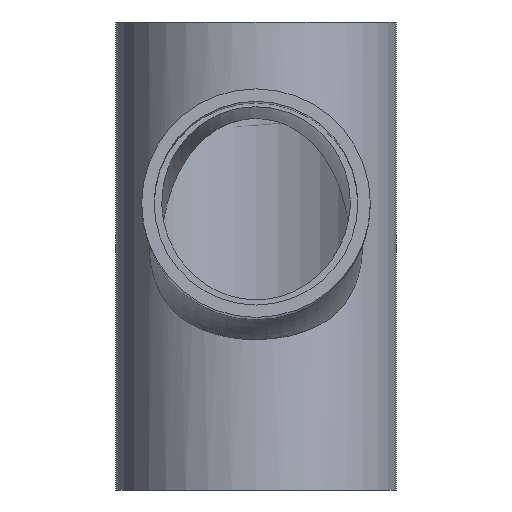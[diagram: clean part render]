
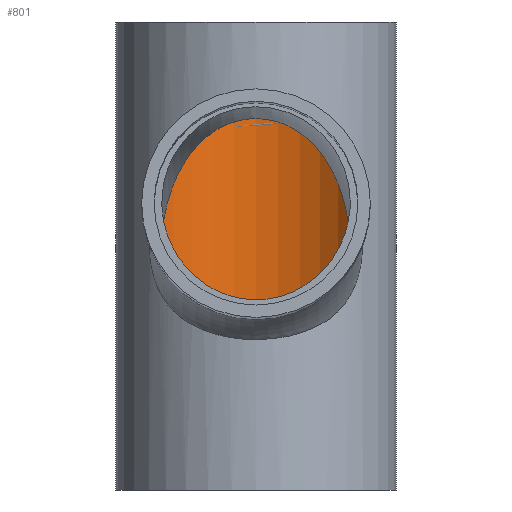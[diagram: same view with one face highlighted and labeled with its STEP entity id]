
A CAD part, left-side view. The second image highlights one B-rep face of the part: STEP entity #801.
In plain terms, the highlighted cylindrical face has radius 61.75 mm (diameter 123.5 mm), a full revolution.
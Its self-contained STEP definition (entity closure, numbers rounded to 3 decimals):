
#14=FACE_BOUND($,#173,.T.);
#15=FACE_BOUND($,#174,.T.);
#16=FACE_BOUND($,#175,.T.);
#48=B_SPLINE_CURVE_WITH_KNOTS($,3,(#1381,#1382,#1383,#1384,#1385,#1386,
#1387,#1388,#1389,#1390,#1391,#1392,#1393,#1394,#1395,#1396,#1397,#1398,
#1399,#1400,#1401,#1402,#1403,#1404,#1405,#1406,#1407,#1408,#1409,#1410,
#1411,#1412,#1413,#1414,#1415,#1416,#1417,#1418,#1419,#1420,#1421,#1422),
 .UNSPECIFIED.,.T.,.F.,(4,2,2,2,2,2,2,2,2,2,2,2,2,2,2,2,2,2,2,2,4),(-31.333,
-31.293,-30.044,-28.451,-26.372,
-23.975,-22.368,-21.069,-19.687,
-18.078,-16.424,-14.76,-13.122,
-11.594,-10.171,-8.662,-6.537,
-4.224,-2.556,-1.264,0.),.UNSPECIFIED.);
#173=EDGE_LOOP($,(#607));
#174=EDGE_LOOP($,(#608));
#175=EDGE_LOOP($,(#609));
#267=CIRCLE($,#914,61.75);
#268=CIRCLE($,#915,61.75);
#387=VERTEX_POINT($,#1380);
#388=VERTEX_POINT($,#1423);
#389=VERTEX_POINT($,#1425);
#483=EDGE_CURVE($,#387,#387,#48,.T.);
#484=EDGE_CURVE($,#388,#388,#267,.T.);
#485=EDGE_CURVE($,#389,#389,#268,.T.);
#607=ORIENTED_EDGE($,*,*,#483,.F.);
#608=ORIENTED_EDGE($,*,*,#484,.F.);
#609=ORIENTED_EDGE($,*,*,#485,.F.);
#701=CYLINDRICAL_SURFACE($,#913,61.75);
#801=ADVANCED_FACE($,(#14,#15,#16),#701,.F.);
#913=AXIS2_PLACEMENT_3D($,#1379,#1158,#1159);
#914=AXIS2_PLACEMENT_3D($,#1424,#1160,#1161);
#915=AXIS2_PLACEMENT_3D($,#1426,#1162,#1163);
#1158=DIRECTION('center_axis',(0.,0.,1.));
#1159=DIRECTION('ref_axis',(1.,0.,0.));
#1160=DIRECTION('center_axis',(0.,0.,-1.));
#1161=DIRECTION('ref_axis',(1.,0.,0.));
#1162=DIRECTION('center_axis',(0.,0.,1.));
#1163=DIRECTION('ref_axis',(1.,0.,0.));
#1379=CARTESIAN_POINT('Origin',(0.,0.,0.));
#1380=CARTESIAN_POINT('',(-61.75,0.,179.352));
#1381=CARTESIAN_POINT('Ctrl Pts',(-61.75,0.,179.352));
#1382=CARTESIAN_POINT('Ctrl Pts',(-61.75,-0.133,179.352));
#1383=CARTESIAN_POINT('Ctrl Pts',(-61.75,-0.266,
179.351));
#1384=CARTESIAN_POINT('Ctrl Pts',(-61.722,-4.563,179.302));
#1385=CARTESIAN_POINT('Ctrl Pts',(-61.272,-8.602,178.519));
#1386=CARTESIAN_POINT('Ctrl Pts',(-59.49,-17.284,175.307));
#1387=CARTESIAN_POINT('Ctrl Pts',(-57.994,-21.596,172.56));
#1388=CARTESIAN_POINT('Ctrl Pts',(-54.134,-30.182,164.883));
#1389=CARTESIAN_POINT('Ctrl Pts',(-51.576,-34.182,159.42));
#1390=CARTESIAN_POINT('Ctrl Pts',(-46.467,-40.92,146.118));
#1391=CARTESIAN_POINT('Ctrl Pts',(-44.004,-43.357,138.075));
#1392=CARTESIAN_POINT('Ctrl Pts',(-41.852,-45.419,124.403));
#1393=CARTESIAN_POINT('Ctrl Pts',(-41.5,-45.729,118.716));
#1394=CARTESIAN_POINT('Ctrl Pts',(-42.288,-45.,108.67));
#1395=CARTESIAN_POINT('Ctrl Pts',(-43.148,-44.216,104.356));
#1396=CARTESIAN_POINT('Ctrl Pts',(-45.927,-41.329,96.018));
#1397=CARTESIAN_POINT('Ctrl Pts',(-47.823,-39.216,92.267));
#1398=CARTESIAN_POINT('Ctrl Pts',(-52.235,-33.178,85.279));
#1399=CARTESIAN_POINT('Ctrl Pts',(-54.735,-29.071,82.3));
#1400=CARTESIAN_POINT('Ctrl Pts',(-58.943,-19.193,77.727));
#1401=CARTESIAN_POINT('Ctrl Pts',(-60.513,-13.625,76.277));
#1402=CARTESIAN_POINT('Ctrl Pts',(-62.,-1.956,74.891));
#1403=CARTESIAN_POINT('Ctrl Pts',(-61.895,4.022,74.983));
#1404=CARTESIAN_POINT('Ctrl Pts',(-60.058,15.466,76.71));
#1405=CARTESIAN_POINT('Ctrl Pts',(-58.369,20.819,78.301));
#1406=CARTESIAN_POINT('Ctrl Pts',(-54.186,30.012,82.96));
#1407=CARTESIAN_POINT('Ctrl Pts',(-51.803,33.824,85.876));
#1408=CARTESIAN_POINT('Ctrl Pts',(-47.402,39.733,93.028));
#1409=CARTESIAN_POINT('Ctrl Pts',(-45.483,41.812,97.019));
#1410=CARTESIAN_POINT('Ctrl Pts',(-42.636,44.717,106.349));
#1411=CARTESIAN_POINT('Ctrl Pts',(-41.874,45.383,111.452));
#1412=CARTESIAN_POINT('Ctrl Pts',(-41.604,45.631,124.006));
#1413=CARTESIAN_POINT('Ctrl Pts',(-42.727,44.649,131.448));
#1414=CARTESIAN_POINT('Ctrl Pts',(-46.303,40.943,145.792));
#1415=CARTESIAN_POINT('Ctrl Pts',(-48.94,37.969,152.946));
#1416=CARTESIAN_POINT('Ctrl Pts',(-53.541,30.964,163.635));
#1417=CARTESIAN_POINT('Ctrl Pts',(-55.525,27.402,167.706));
#1418=CARTESIAN_POINT('Ctrl Pts',(-58.56,19.904,173.601));
#1419=CARTESIAN_POINT('Ctrl Pts',(-59.714,16.248,175.712));
#1420=CARTESIAN_POINT('Ctrl Pts',(-61.315,8.332,178.597));
#1421=CARTESIAN_POINT('Ctrl Pts',(-61.75,4.214,179.352));
#1422=CARTESIAN_POINT('Ctrl Pts',(-61.75,0.,179.352));
#1423=CARTESIAN_POINT('',(-61.75,0.,226.));
#1424=CARTESIAN_POINT('Origin',(0.,0.,226.));
#1425=CARTESIAN_POINT('',(-61.75,0.,0.));
#1426=CARTESIAN_POINT('Origin',(0.,0.,0.));
